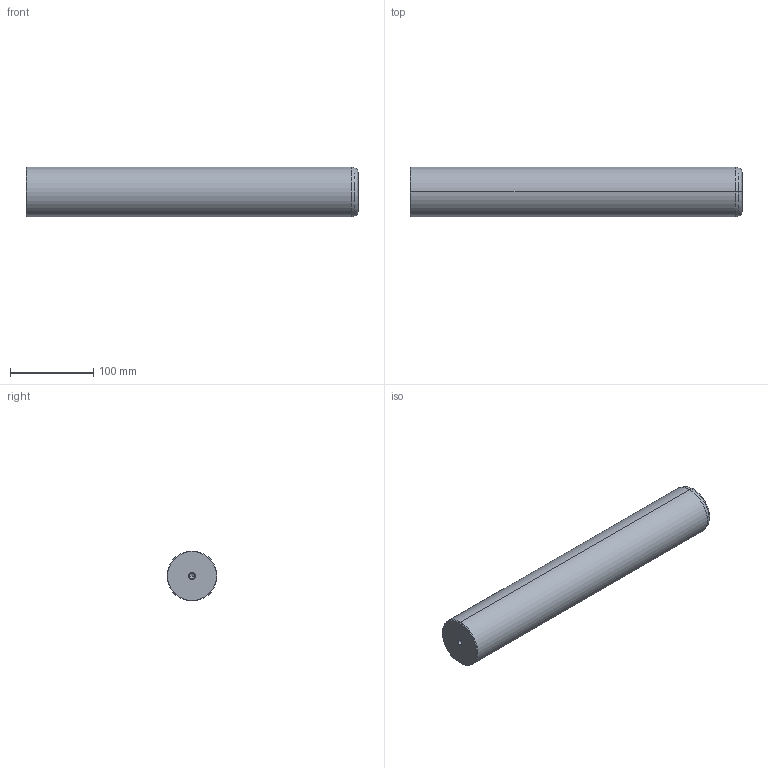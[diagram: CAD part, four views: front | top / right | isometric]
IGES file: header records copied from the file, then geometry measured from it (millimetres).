
Start section: START RECORD GO HERE.
Global section: file name: 720-60x400.igs; native system: DASSAULT SYSTEMES CATIA V5 R20 - www.3ds.com; preprocessor: CATIA Version 5 Release 20 ; author: Utente; organization: NB04-ASUS; date: 20201230.223226; units: millimetre
Bounding box: 400 x 60 x 60 mm (x, y, z)
Surface area: 81373.3 mm2 (no closed solid volume)
Topology: 0 solids, 0 shells, 22 faces, 120 edges, 116 vertices
Faces by surface type: revolution 20, plane 2
